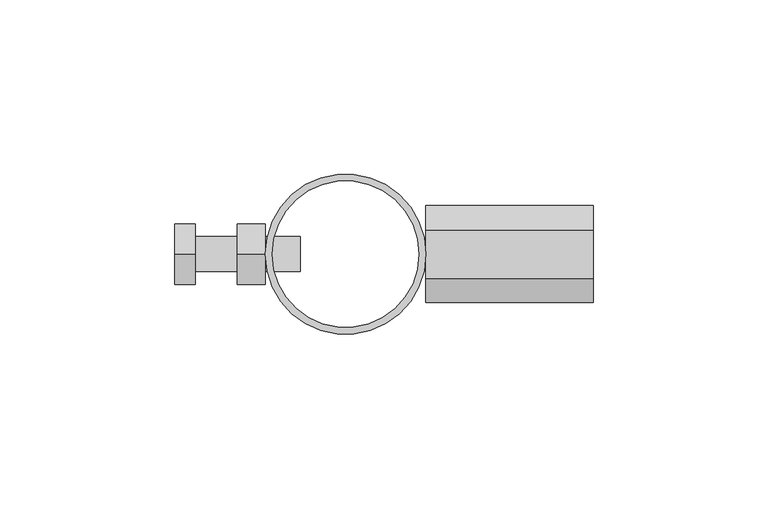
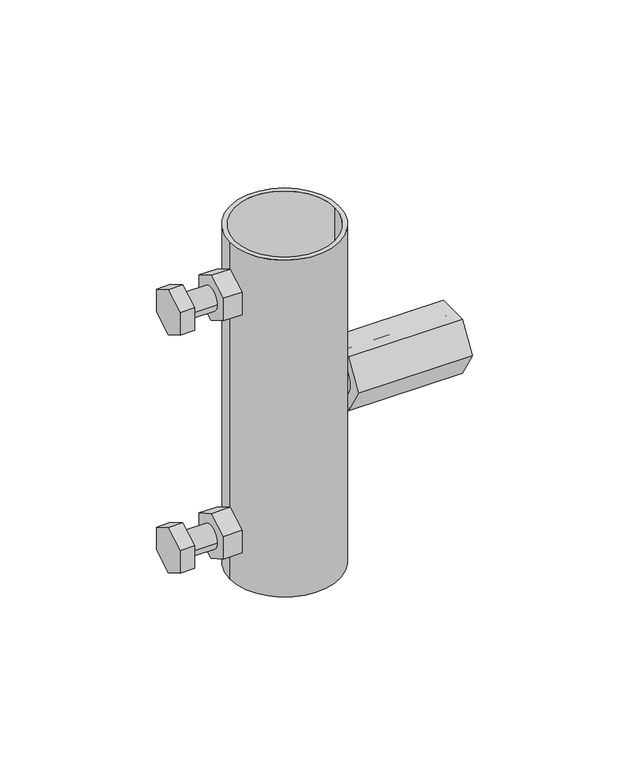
"""IFC4 building model written with IfcOpenShell, lengths in millimetres: proxy geometry, КНС_ДержательНастенныйДляИзолированныхМачт_DKC : NK3105_Горячеоцинкованная сталь."""

from ifc_helpers import new_model, si_unit, point, frame, frame_2d, origin, origin_2d, place, context, project, spatial, polyline, circle_curve, trimmed, segment, composite_curve, outline, extrude, source, transform, mapped, element, save


def security_devices_a8f7f402(model_context):
    return source(origin(), model_context, "Body", "SweptSolid", [
        extrude(outline(polyline([(-8.660254, 58.0), (0.0, 63.0), (8.660254, 58.0), (8.660254, 48.0), (0.0, 43.0), (-8.660254, 48.0), (-8.660254, 58.0)])), frame((-31.0, 0.0, 0.0), z_axis=(1.0, 0.0, 0.0), x_axis=(0.0, 1.0, 0.0)), (0.0, 0.0, 1.0), 8.0),
        extrude(outline(polyline([(-8.660254, 58.0), (0.0, 63.0), (8.660254, 58.0), (8.660254, 48.0), (0.0, 43.0), (-8.660254, 48.0), (-8.660254, 58.0)])), frame((-49.0, 0.0, 0.0), z_axis=(1.0, 0.0, 0.0), x_axis=(0.0, 1.0, 0.0)), (0.0, 0.0, 1.0), 6.0),
        extrude(outline(composite_curve([segment(trimmed(circle_curve(frame_2d((0.0, 53.0)), 5.0), [point((-5.0, 53.0))], [point((5.0, 53.0))], False, "CARTESIAN"), True, "CONTINUOUS"), segment(trimmed(circle_curve(frame_2d((0.0, 53.0)), 5.0), [point((5.0, 53.0))], [point((-5.0, 53.0))], False, "CARTESIAN"), True, "CONTINUOUS")], self_intersect=False)), frame((-43.0, 0.0, 0.0), z_axis=(1.0, 0.0, 0.0), x_axis=(0.0, 1.0, 0.0)), (0.0, 0.0, 1.0), 30.0),
        extrude(outline(polyline([(-8.660254, -58.0), (-8.660254, -48.0), (0.0, -43.0), (8.660254, -48.0), (8.660254, -58.0), (0.0, -63.0), (-8.660254, -58.0)])), frame((-31.0, 0.0, 0.0), z_axis=(1.0, 0.0, 0.0), x_axis=(0.0, 1.0, 0.0)), (0.0, 0.0, 1.0), 8.0),
        extrude(outline(polyline([(-8.660254, -58.0), (-8.660254, -48.0), (0.0, -43.0), (8.660254, -48.0), (8.660254, -58.0), (0.0, -63.0), (-8.660254, -58.0)])), frame((-49.0, 0.0, 0.0), z_axis=(1.0, 0.0, 0.0), x_axis=(0.0, 1.0, 0.0)), (0.0, 0.0, 1.0), 6.0),
        extrude(outline(composite_curve([segment(trimmed(circle_curve(frame_2d((0.0, -53.0)), 5.0), [point((-5.0, -53.0))], [point((5.0, -53.0))], False, "CARTESIAN"), True, "CONTINUOUS"), segment(trimmed(circle_curve(frame_2d((0.0, -53.0)), 5.0), [point((5.0, -53.0))], [point((-5.0, -53.0))], False, "CARTESIAN"), True, "CONTINUOUS")], self_intersect=False)), frame((-43.0, 0.0, 0.0), z_axis=(1.0, 0.0, 0.0), x_axis=(0.0, 1.0, 0.0)), (0.0, 0.0, 1.0), 30.0),
        extrude(outline(polyline([(-13.9037119, 0.0), (-6.9518559, 12.0409677), (6.9518559, 12.0409677), (13.9037119, 0.0), (6.9518559, -12.0409677), (-6.9518559, -12.0409677), (-13.9037119, 0.0)]), holes=[composite_curve([segment(trimmed(circle_curve(origin_2d(), 8.0), [point((-8.0, 0.0))], [point((8.0, 0.0))], True, "CARTESIAN"), True, "CONTINUOUS"), segment(trimmed(circle_curve(origin_2d(), 8.0), [point((8.0, 0.0))], [point((-8.0, 0.0))], True, "CARTESIAN"), True, "CONTINUOUS")], self_intersect=False)]), frame((23.0, 0.0, 0.0), z_axis=(1.0, 0.0, 0.0), x_axis=(0.0, 1.0, 0.0)), (0.0, 0.0, 1.0), 48.0),
        extrude(outline(composite_curve([segment(trimmed(circle_curve(origin_2d(), 23.0), [point((-23.0, 0.0))], [point((23.0, 0.0))], False, "CARTESIAN"), True, "CONTINUOUS"), segment(trimmed(circle_curve(origin_2d(), 23.0), [point((23.0, 0.0))], [point((-23.0, 0.0))], False, "CARTESIAN"), True, "CONTINUOUS")], self_intersect=False), holes=[composite_curve([segment(trimmed(circle_curve(origin_2d(), 21.0), [point((-21.0, 0.0))], [point((21.0, 0.0))], True, "CARTESIAN"), True, "CONTINUOUS"), segment(trimmed(circle_curve(origin_2d(), 21.0), [point((21.0, 0.0))], [point((-21.0, 0.0))], True, "CARTESIAN"), True, "CONTINUOUS")], self_intersect=False)]), frame((0.0, 0.0, -75.0), z_axis=(0.0, 0.0, 1.0), x_axis=(1.0, 0.0, 0.0)), (0.0, 0.0, 1.0), 150.0),
    ])


if __name__ == "__main__":
    model = new_model("IFC4")
    model_context = context("Model", 3, world=origin())
    ifc_project = project(units=[si_unit("LENGTHUNIT", "METRE", prefix="MILLI")], contexts=[model_context])
    site = spatial("IfcSite", under=ifc_project)
    building = spatial("IfcBuilding", under=site)
    placement = place(None, origin())
    security_devices_shape = security_devices_a8f7f402(model_context)
    element("IfcBuildingElementProxy", 1, Name="КНС_ДержательНастенныйДляИзолированныхМачт_DKC : NK3105_Горячеоцинкованная сталь", ObjectType="КНС_ДержательНастенныйДляИзолированныхМачт_DKC : NK3105_Горячеоцинкованная сталь", at=placement, inside=building, context=model_context, shape_type="MappedRepresentation", body=[
        mapped(security_devices_shape, transform((0.0, 0.0, 0.0), x_axis=(1.0, 0.0, 0.0), y_axis=(0.0, 1.0, 0.0), z_axis=(0.0, 0.0, 1.0))),
    ])
    save(model, "model.ifc")
